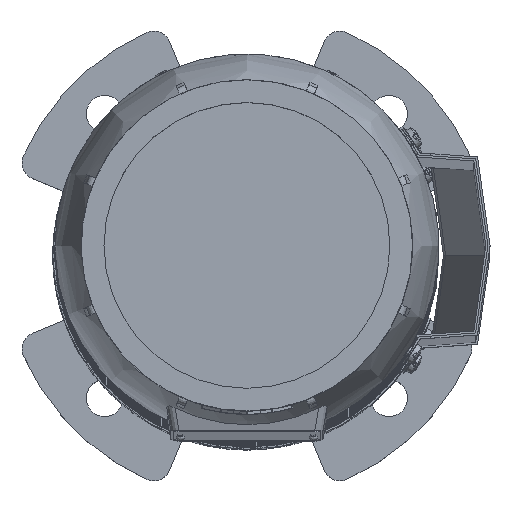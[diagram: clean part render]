
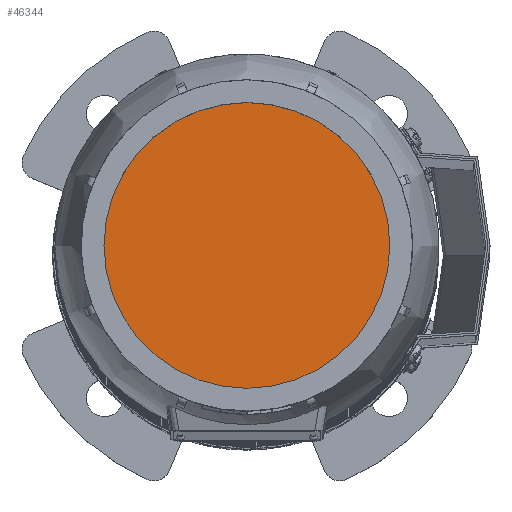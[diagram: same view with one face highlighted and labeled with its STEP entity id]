
A CAD part, top view. The second image highlights one B-rep face of the part: STEP entity #46344.
In plain terms, the highlighted planar face has unit normal (0, 0, 1) as drawn and (0, 1, 0) by its records, which use the part's own axes.
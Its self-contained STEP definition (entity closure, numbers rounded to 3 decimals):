
#9737=ORIENTED_EDGE('',*,*,#23683,.F.);
#23683=EDGE_CURVE('',#30656,#30656,#35363,.T.);
#30656=VERTEX_POINT('',#66981);
#35363=CIRCLE('',#48903,67.736);
#37485=EDGE_LOOP('',(#9737));
#40899=FACE_BOUND('',#37485,.T.);
#44331=PLANE('',#48902);
#46344=ADVANCED_FACE('',(#40899),#44331,.F.);
#48902=AXIS2_PLACEMENT_3D('',#66979,#53514,#53515);
#48903=AXIS2_PLACEMENT_3D('',#66980,#53516,#53517);
#53514=DIRECTION('',(0.,-1.,0.));
#53515=DIRECTION('',(0.,0.,-1.));
#53516=DIRECTION('',(0.,-1.,0.));
#53517=DIRECTION('',(0.,0.,-1.));
#66979=CARTESIAN_POINT('',(0.,154.,0.));
#66980=CARTESIAN_POINT('',(0.,154.,0.));
#66981=CARTESIAN_POINT('',(0.,154.,-67.736));
